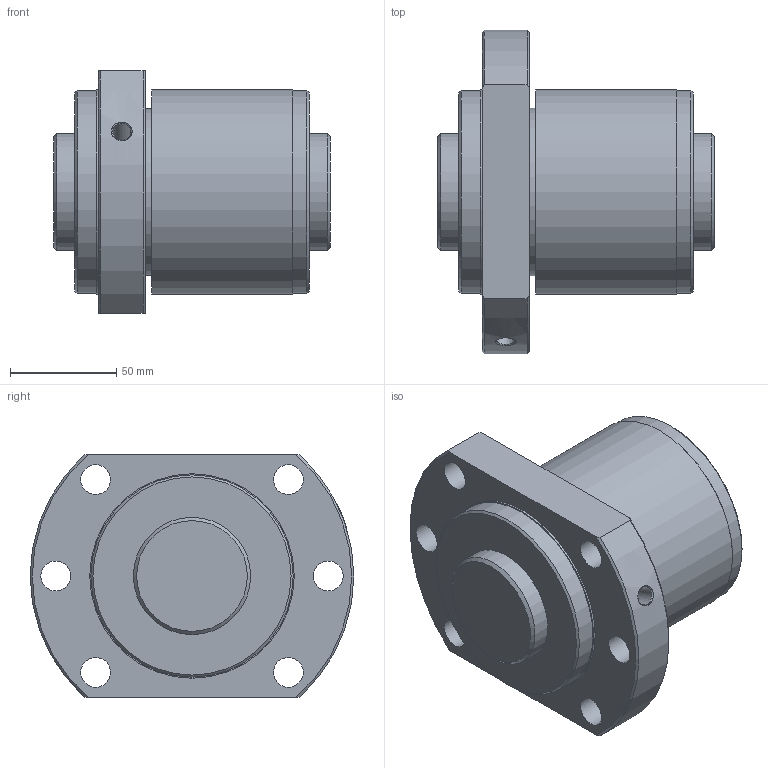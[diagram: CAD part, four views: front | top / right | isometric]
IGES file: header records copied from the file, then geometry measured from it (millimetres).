
Start section: Data from Parasolid IGES Translator 26.0.171, Copyright(c) 2006 Siemens PLM Software. All Rights Reserved.
Global section: file name: SBK5520-7.6RRG0+130LC0(0000).igs; native system: By Siemens PLM Incorporated; preprocessor: XPlus GENERIC/IGES 26.0.171; author: Noname; organization: Noname; date: 20240528.112043; units: millimetre
Bounding box: 130 x 152 x 114 mm (x, y, z)
Surface area: 117621.9 mm2 (no closed solid volume)
Topology: 0 solids, 0 shells, 37 faces, 167 edges, 143 vertices
Faces by surface type: revolution 26, extrusion 11
